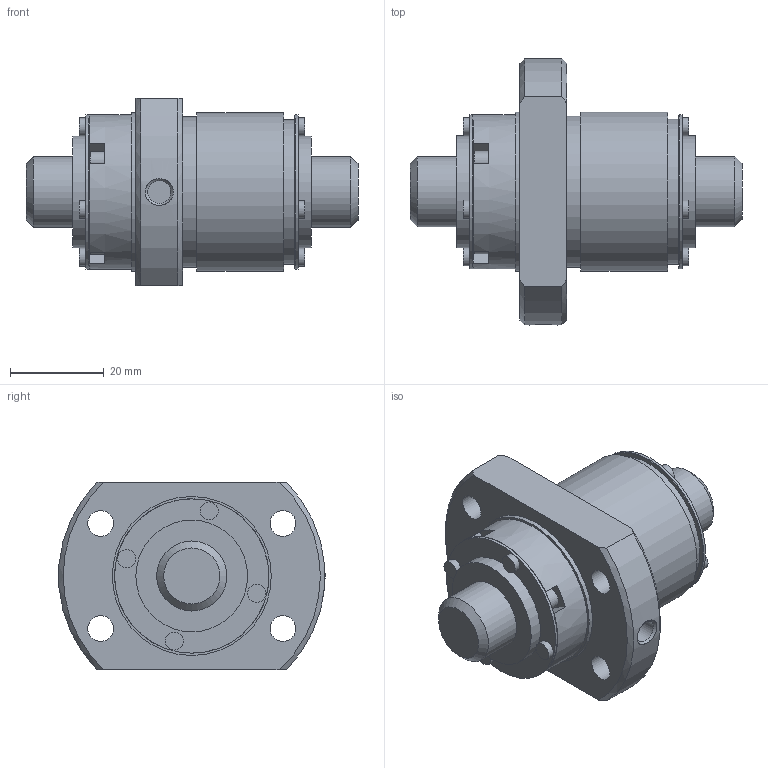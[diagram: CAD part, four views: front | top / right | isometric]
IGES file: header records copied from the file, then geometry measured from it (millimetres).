
Start section: Data from Parasolid IGES Translator 26.0.171, Copyright(c) 2006 Siemens PLM Software. All Rights Reserved.
Global section: file name: BLK1510-5.6ZZG1+71LC3_N0_1300.igs; native system: By Siemens PLM Incorporated; preprocessor: XPlus GENERIC/IGES 26.0.171; author: Noname; organization: Noname; date: 20250116.070426; units: millimetre
Bounding box: 71 x 56.89 x 40 mm (x, y, z)
Surface area: 17462.5 mm2 (no closed solid volume)
Topology: 0 solids, 0 shells, 156 faces, 704 edges, 635 vertices
Faces by surface type: extrusion 95, revolution 61
